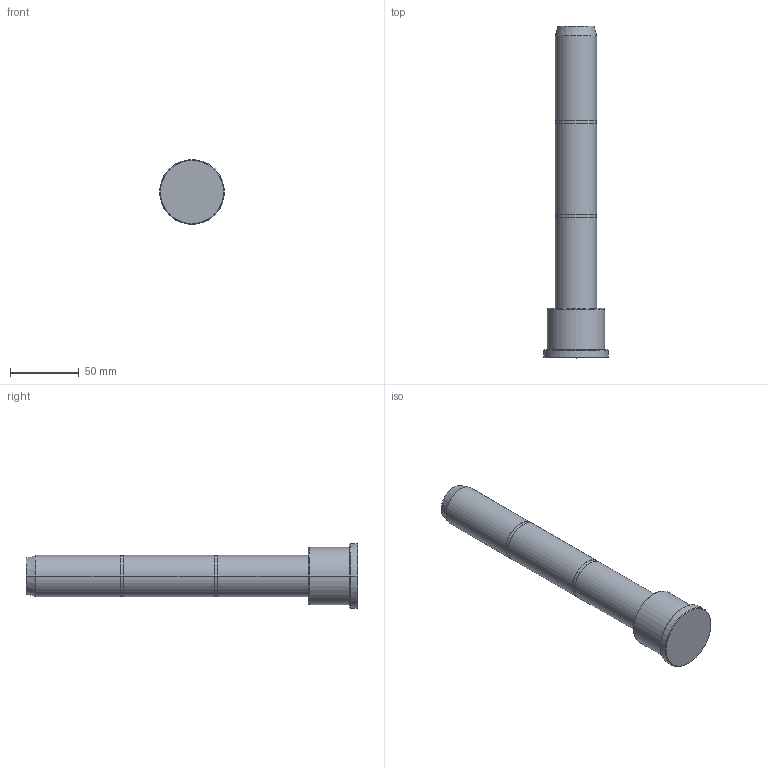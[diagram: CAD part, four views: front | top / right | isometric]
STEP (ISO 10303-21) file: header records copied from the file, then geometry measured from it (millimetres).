
FILE_DESCRIPTION (( 'STEP AP214' ), '1' );
FILE_NAME ('BR03 30x36x205.STEP', '2019-04-16T14:06:04', ( 'August' ), ( '' ), 'SwSTEP 2.0', 'SolidWorks 2018', '' );
FILE_SCHEMA (( 'AUTOMOTIVE_DESIGN' ));
Length unit declared in the file: millimetre
Products named in the file (1): BR03 30x36x205
Bounding box: 47 x 241 x 47 mm (x, y, z)
Volume: 196162.6 mm3; surface area: 27375.3 mm2
Topology: 1 solids, 1 shells, 30 faces, 58 edges, 36 vertices
Faces by surface type: cylinder 14, cone 8, plane 8
Entity records: 808 total; most frequent: DIRECTION 156, CARTESIAN_POINT 125, ORIENTED_EDGE 116, AXIS2_PLACEMENT_3D 67, EDGE_CURVE 58, VERTEX_POINT 36, EDGE_LOOP 36, CIRCLE 36
